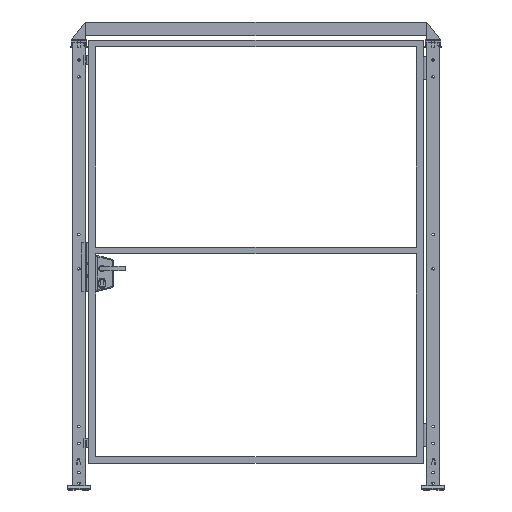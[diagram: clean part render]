
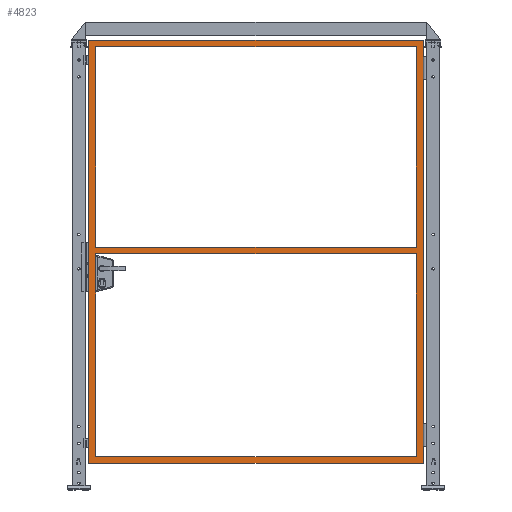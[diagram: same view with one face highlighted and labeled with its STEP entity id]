
A CAD part, top view. The second image highlights one B-rep face of the part: STEP entity #4823.
In plain terms, the highlighted planar face has unit normal (0, 0, 1).
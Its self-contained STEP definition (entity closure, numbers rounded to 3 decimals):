
#4823=ADVANCED_FACE('',(#9878,#9879,#9880),#9881,.F.);
#9878=FACE_BOUND('',#17852,.T.);
#9879=FACE_OUTER_BOUND('',#17853,.T.);
#9880=FACE_BOUND('',#17854,.T.);
#9881=PLANE('',#17855);
#17852=EDGE_LOOP('',(#32088,#32089,#32090,#32091));
#17853=EDGE_LOOP('',(#32092,#32093,#32094,#32095));
#17854=EDGE_LOOP('',(#32096,#32097,#32098,#32099));
#17855=AXIS2_PLACEMENT_3D('',#32100,#32101,#32102);
#32088=ORIENTED_EDGE('',*,*,#37969,.F.);
#32089=ORIENTED_EDGE('',*,*,#37975,.T.);
#32090=ORIENTED_EDGE('',*,*,#37997,.T.);
#32091=ORIENTED_EDGE('',*,*,#38002,.F.);
#32092=ORIENTED_EDGE('',*,*,#38013,.F.);
#32093=ORIENTED_EDGE('',*,*,#38007,.F.);
#32094=ORIENTED_EDGE('',*,*,#37977,.F.);
#32095=ORIENTED_EDGE('',*,*,#38011,.F.);
#32096=ORIENTED_EDGE('',*,*,#37999,.F.);
#32097=ORIENTED_EDGE('',*,*,#37994,.F.);
#32098=ORIENTED_EDGE('',*,*,#38005,.T.);
#32099=ORIENTED_EDGE('',*,*,#38014,.T.);
#32100=CARTESIAN_POINT('',(765.0,135.0,15.0));
#32101=DIRECTION('',(0.,0.0,-1.0));
#32102=DIRECTION('',(-1.0,0.0,0.));
#37969=EDGE_CURVE('',#46828,#46831,#46832,.T.);
#37975=EDGE_CURVE('',#46828,#46839,#46841,.T.);
#37977=EDGE_CURVE('',#46843,#46844,#46845,.T.);
#37994=EDGE_CURVE('',#46871,#46869,#46873,.T.);
#37997=EDGE_CURVE('',#46839,#46875,#46877,.T.);
#37999=EDGE_CURVE('',#46869,#46879,#46880,.T.);
#38002=EDGE_CURVE('',#46831,#46875,#46883,.T.);
#38005=EDGE_CURVE('',#46871,#46885,#46887,.T.);
#38007=EDGE_CURVE('',#46844,#46889,#46890,.T.);
#38011=EDGE_CURVE('',#46893,#46843,#46895,.T.);
#38013=EDGE_CURVE('',#46889,#46893,#46897,.T.);
#38014=EDGE_CURVE('',#46885,#46879,#46898,.T.);
#46828=VERTEX_POINT('',#60680);
#46831=VERTEX_POINT('',#60684);
#46832=LINE('',#60685,#60686);
#46839=VERTEX_POINT('',#60696);
#46841=LINE('',#60699,#60700);
#46843=VERTEX_POINT('',#60702);
#46844=VERTEX_POINT('',#60703);
#46845=LINE('',#60704,#60705);
#46869=VERTEX_POINT('',#60741);
#46871=VERTEX_POINT('',#60744);
#46873=LINE('',#60747,#60748);
#46875=VERTEX_POINT('',#60750);
#46877=LINE('',#60753,#60754);
#46879=VERTEX_POINT('',#60756);
#46880=LINE('',#60757,#60758);
#46883=LINE('',#60762,#60763);
#46885=VERTEX_POINT('',#60765);
#46887=LINE('',#60768,#60769);
#46889=VERTEX_POINT('',#60771);
#46890=LINE('',#60772,#60773);
#46893=VERTEX_POINT('',#60777);
#46895=LINE('',#60780,#60781);
#46897=LINE('',#60783,#60784);
#46898=LINE('',#60785,#60786);
#60680=CARTESIAN_POINT('',(1485.0,1990.0,15.));
#60684=CARTESIAN_POINT('',(45.0,1990.0,15.0));
#60685=CARTESIAN_POINT('',(765.0,1990.0,15.0));
#60686=VECTOR('',#67067,1.0);
#60696=CARTESIAN_POINT('',(1485.0,1090.0,15.));
#60699=CARTESIAN_POINT('',(1485.0,1070.0,15.));
#60700=VECTOR('',#67072,1.0);
#60702=CARTESIAN_POINT('',(15.0,120.0,15.0));
#60703=CARTESIAN_POINT('',(15.,2020.0,15.0));
#60704=CARTESIAN_POINT('',(15.0,135.0,15.0));
#60705=VECTOR('',#67073,1.0);
#60741=CARTESIAN_POINT('',(45.,1060.0,15.0));
#60744=CARTESIAN_POINT('',(1485.0,1060.0,15.));
#60747=CARTESIAN_POINT('',(765.0,1060.0,15.0));
#60748=VECTOR('',#67088,1.0);
#60750=CARTESIAN_POINT('',(45.0,1090.0,15.0));
#60753=CARTESIAN_POINT('',(765.0,1090.0,15.0));
#60754=VECTOR('',#67090,1.0);
#60756=CARTESIAN_POINT('',(45.0,150.0,15.0));
#60757=CARTESIAN_POINT('',(45.,1070.0,15.0));
#60758=VECTOR('',#67091,1.0);
#60762=CARTESIAN_POINT('',(45.,1070.0,15.0));
#60763=VECTOR('',#67093,1.0);
#60765=CARTESIAN_POINT('',(1485.0,150.0,15.));
#60768=CARTESIAN_POINT('',(1485.0,1070.0,15.));
#60769=VECTOR('',#67095,1.0);
#60771=CARTESIAN_POINT('',(1515.0,2020.0,15.));
#60772=CARTESIAN_POINT('',(30.,2020.0,15.0));
#60773=VECTOR('',#67096,1.0);
#60777=CARTESIAN_POINT('',(1515.0,120.0,15.));
#60780=CARTESIAN_POINT('',(765.0,120.0,15.0));
#60781=VECTOR('',#67099,1.0);
#60783=CARTESIAN_POINT('',(1515.0,1070.0,15.));
#60784=VECTOR('',#67100,1.0);
#60785=CARTESIAN_POINT('',(765.0,150.0,15.0));
#60786=VECTOR('',#67101,1.0);
#67067=DIRECTION('',(-1.0,0.0,0.));
#67072=DIRECTION('',(0.,-1.0,0.));
#67073=DIRECTION('',(0.0,1.0,0.0));
#67088=DIRECTION('',(-1.0,0.0,0.));
#67090=DIRECTION('',(-1.0,0.0,0.));
#67091=DIRECTION('',(0.,-1.0,0.));
#67093=DIRECTION('',(0.,-1.0,0.));
#67095=DIRECTION('',(0.,-1.0,0.));
#67096=DIRECTION('',(1.0,0.,0.));
#67099=DIRECTION('',(-1.0,0.0,0.));
#67100=DIRECTION('',(0.,-1.0,0.));
#67101=DIRECTION('',(-1.0,0.0,0.));
